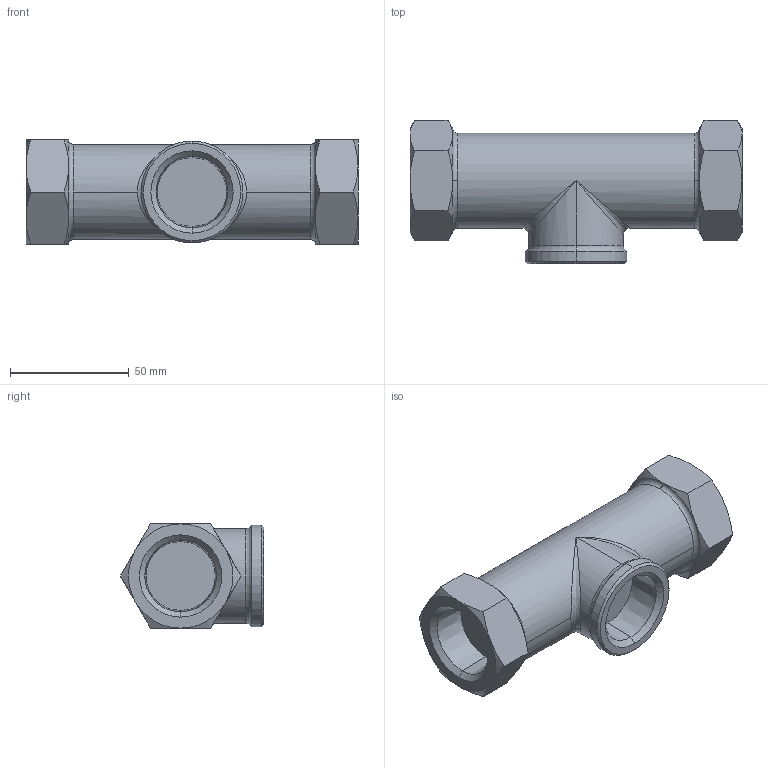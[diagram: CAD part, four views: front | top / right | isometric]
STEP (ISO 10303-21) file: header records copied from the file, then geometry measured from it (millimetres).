
FILE_DESCRIPTION (( 'STEP AP203' ), '1' );
FILE_NAME ('MS-1 25A.STEP', '2026-01-23T01:26:56', ( '' ), ( '' ), 'SwSTEP 2.0', 'SolidWorks 2024', '' );
FILE_SCHEMA (( 'CONFIG_CONTROL_DESIGN' ));
Length unit declared in the file: millimetre
Products named in the file (1): MS-1 25A
Bounding box: 140 x 60.4 x 44 mm (x, y, z)
Volume: 180530.3 mm3; surface area: 28855.8 mm2
Topology: 1 solids, 1 shells, 70 faces, 155 edges, 86 vertices
Faces by surface type: cone 38, plane 18, torus 6, cylinder 6, bspline 2
Entity records: 2362 total; most frequent: CARTESIAN_POINT 848, ORIENTED_EDGE 302, DIRECTION 299, EDGE_CURVE 151, AXIS2_PLACEMENT_3D 133, VERTEX_POINT 86, EDGE_LOOP 73, ADVANCED_FACE 70
